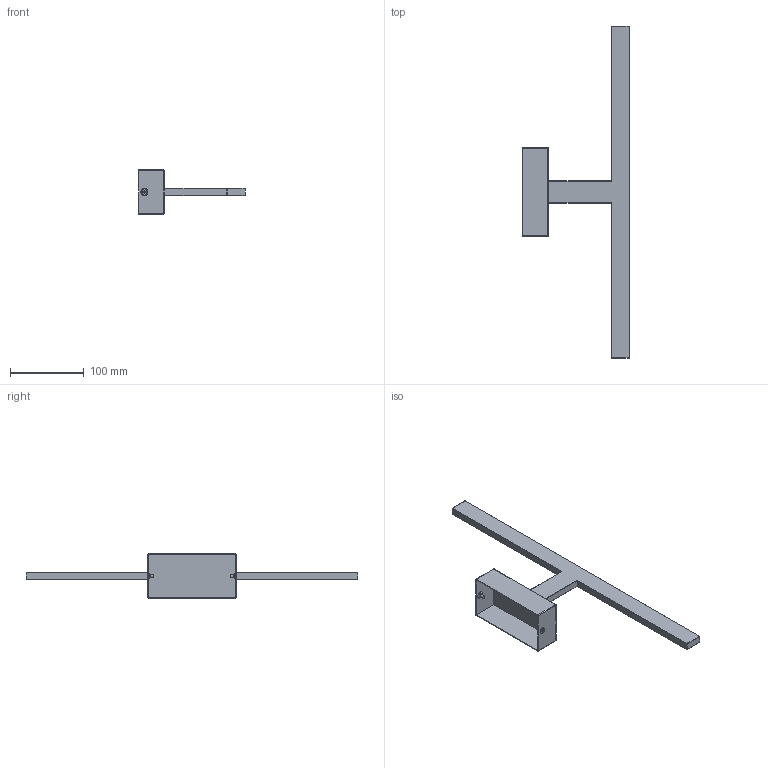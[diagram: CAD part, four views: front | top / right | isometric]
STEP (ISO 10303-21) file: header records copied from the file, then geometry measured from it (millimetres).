
FILE_DESCRIPTION (( 'STEP AP214' ), '1' );
FILE_NAME ('MENORCA-A3730271.STEP', '2026-01-14T11:43:41', ( '' ), ( '' ), 'SwSTEP 2.0', 'SolidWorks 2025', '' );
FILE_SCHEMA (( 'AUTOMOTIVE_DESIGN' ));
Length unit declared in the file: millimetre
Products named in the file (4): countersunk flat head cross recess screw_iso_ISO 7046-1 - M4 x 8 - Z - 8N; CONFIGURABLE MENORCA - 3730_MENORCA 3730-40; MENORCA-A3730271; DIFUSOR^MENORCA - 3730
Assembly tree (4 placements, depth 2):
  MENORCA-A3730271
    CONFIGURABLE MENORCA - 3730_MENORCA 3730-40
    DIFUSOR^MENORCA - 3730
    countersunk flat head cross recess screw_iso_ISO 7046-1 - M4 x 8 - Z - 8N  x2
Bounding box: 145 x 450 x 60 mm (x, y, z)
Volume: 140547.9 mm3; surface area: 94323.8 mm2
Topology: 4 solids, 4 shells, 160 faces, 363 edges, 207 vertices
Faces by surface type: plane 70, cylinder 48, cone 16, torus 14, sphere 12
Full cylindrical faces by diameter (mm): 4 x4, 8.4 x2
Entity records: 3629 total; most frequent: DIRECTION 670, CARTESIAN_POINT 602, ORIENTED_EDGE 546, EDGE_CURVE 273, AXIS2_PLACEMENT_3D 265, VERTEX_POINT 165, EDGE_LOOP 156, VECTOR 140
